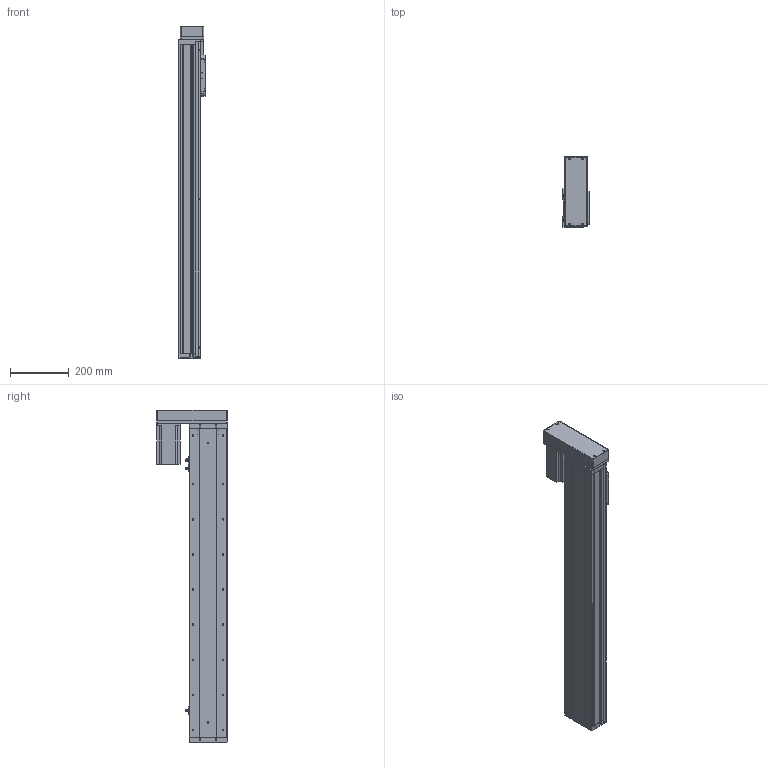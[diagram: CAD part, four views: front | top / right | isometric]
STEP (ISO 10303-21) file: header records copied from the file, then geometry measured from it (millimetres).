
FILE_DESCRIPTION (( 'STEP AP214' ), '1' );
FILE_NAME ('KSD130S-P2010-ML-CR-S850.STEP', '2019-09-24T06:28:10', ( '微软用户' ), ( '微软中国' ), 'SwSTEP 2.0', 'SolidWorks 2014', '' );
FILE_SCHEMA (( 'AUTOMOTIVE_DESIGN' ));
Length unit declared in the file: millimetre
Products named in the file (14): 130宽底板全封闭丝杠-850行程; KSD130S-P2010-ML-CR-S850; 130宽模组马达安装板连板左右折丝杆; 感应片130宽全封闭; U倰嫖萇EEㄜSX672; 130遵裔啣揤啣1; 台达ECMA－C20807AS伺服电机; 130宽盖板全封闭-850行程; 130宽滚珠螺姆安装板1防护罩; 130宽模组保护罩左右折; 130宽滚珠螺姆安装板1; 130宽侧板全封闭-850行程; 130宽全封闭马达安装板丝杠; 130宽全封闭端盖丝杠
Assembly tree (17 placements, depth 2):
  KSD130S-P2010-ML-CR-S850
    130宽底板全封闭丝杠-850行程
    130宽全封闭端盖丝杠
    130宽全封闭马达安装板丝杠
    130宽侧板全封闭-850行程  x2
    130宽滚珠螺姆安装板1
    130宽滚珠螺姆安装板1防护罩
    130宽盖板全封闭-850行程
    130遵裔啣揤啣1  x2
    U倰嫖萇EEㄜSX672  x3
    感应片130宽全封闭
    130宽模组马达安装板连板左右折丝杆
    台达ECMA－C20807AS伺服电机
    130宽模组保护罩左右折
Bounding box: 90 x 240 x 1134.5 mm (x, y, z)
Volume: 4175249.3 mm3; surface area: 1339458.1 mm2
Topology: 18 solids, 18 shells, 1514 faces, 4116 edges, 2581 vertices
Faces by surface type: cylinder 672, plane 611, cone 231
Entity records: 46122 total; most frequent: DIRECTION 7027, CARTESIAN_POINT 6889, ORIENTED_EDGE 6478, EDGE_CURVE 3239, AXIS2_PLACEMENT_3D 2535, VERTEX_POINT 2111, LINE 1957, VECTOR 1957
